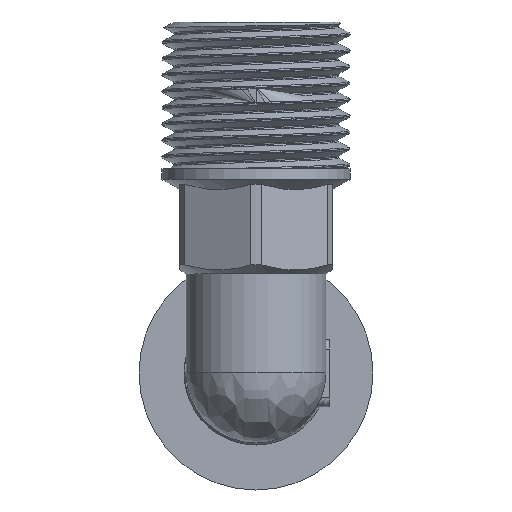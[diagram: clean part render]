
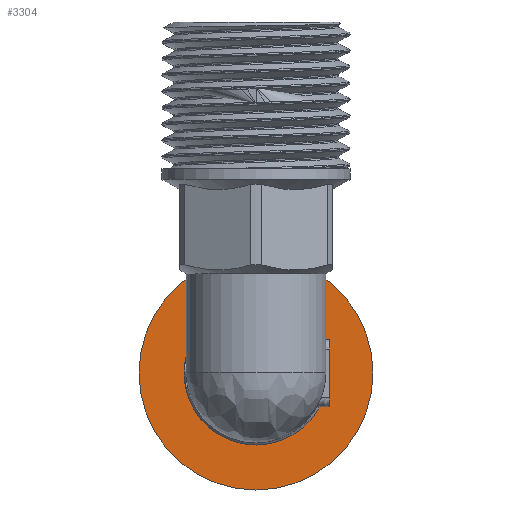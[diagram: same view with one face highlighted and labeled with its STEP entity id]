
A CAD part, front view. The second image highlights one B-rep face of the part: STEP entity #3304.
In plain terms, the highlighted planar face has unit normal (0, -1, 0).
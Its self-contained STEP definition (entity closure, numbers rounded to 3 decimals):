
#107=FACE_BOUND('',#542,.T.);
#193=PLANE('',#3562);
#342=FACE_OUTER_BOUND('',#541,.T.);
#541=EDGE_LOOP('',(#2861,#2862));
#542=EDGE_LOOP('',(#2863,#2864));
#704=CIRCLE('',#3560,8.);
#705=CIRCLE('',#3561,8.);
#706=CIRCLE('',#3563,13.);
#707=CIRCLE('',#3564,13.);
#1572=VERTEX_POINT('',#6609);
#1573=VERTEX_POINT('',#6610);
#1574=VERTEX_POINT('',#6615);
#1575=VERTEX_POINT('',#6616);
#2025=EDGE_CURVE('',#1572,#1573,#704,.T.);
#2026=EDGE_CURVE('',#1573,#1572,#705,.T.);
#2028=EDGE_CURVE('',#1574,#1575,#706,.T.);
#2029=EDGE_CURVE('',#1575,#1574,#707,.T.);
#2861=ORIENTED_EDGE('',*,*,#2028,.F.);
#2862=ORIENTED_EDGE('',*,*,#2029,.F.);
#2863=ORIENTED_EDGE('',*,*,#2025,.T.);
#2864=ORIENTED_EDGE('',*,*,#2026,.T.);
#3304=ADVANCED_FACE('',(#342,#107),#193,.T.);
#3560=AXIS2_PLACEMENT_3D('',#6611,#4110,#4111);
#3561=AXIS2_PLACEMENT_3D('',#6612,#4112,#4113);
#3562=AXIS2_PLACEMENT_3D('',#6614,#4115,#4116);
#3563=AXIS2_PLACEMENT_3D('',#6617,#4117,#4118);
#3564=AXIS2_PLACEMENT_3D('',#6618,#4119,#4120);
#4110=DIRECTION('center_axis',(0.,1.,0.));
#4111=DIRECTION('ref_axis',(1.,0.,0.));
#4112=DIRECTION('center_axis',(0.,1.,0.));
#4113=DIRECTION('ref_axis',(1.,0.,0.));
#4115=DIRECTION('center_axis',(0.,-1.,0.));
#4116=DIRECTION('ref_axis',(0.,0.,-1.));
#4117=DIRECTION('center_axis',(0.,1.,0.));
#4118=DIRECTION('ref_axis',(1.,0.,0.));
#4119=DIRECTION('center_axis',(0.,1.,0.));
#4120=DIRECTION('ref_axis',(1.,0.,0.));
#6609=CARTESIAN_POINT('',(0.,-21.,8.));
#6610=CARTESIAN_POINT('',(0.,-21.,-8.));
#6611=CARTESIAN_POINT('Origin',(0.,-21.,0.));
#6612=CARTESIAN_POINT('Origin',(0.,-21.,0.));
#6614=CARTESIAN_POINT('Origin',(0.,-21.,13.));
#6615=CARTESIAN_POINT('',(0.,-21.,13.));
#6616=CARTESIAN_POINT('',(0.,-21.,-13.));
#6617=CARTESIAN_POINT('Origin',(0.,-21.,0.));
#6618=CARTESIAN_POINT('Origin',(0.,-21.,0.));
